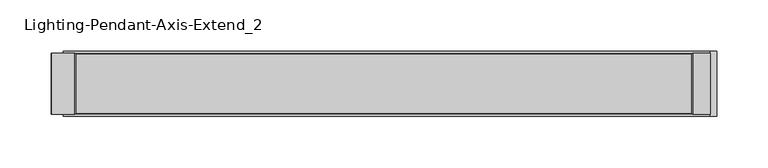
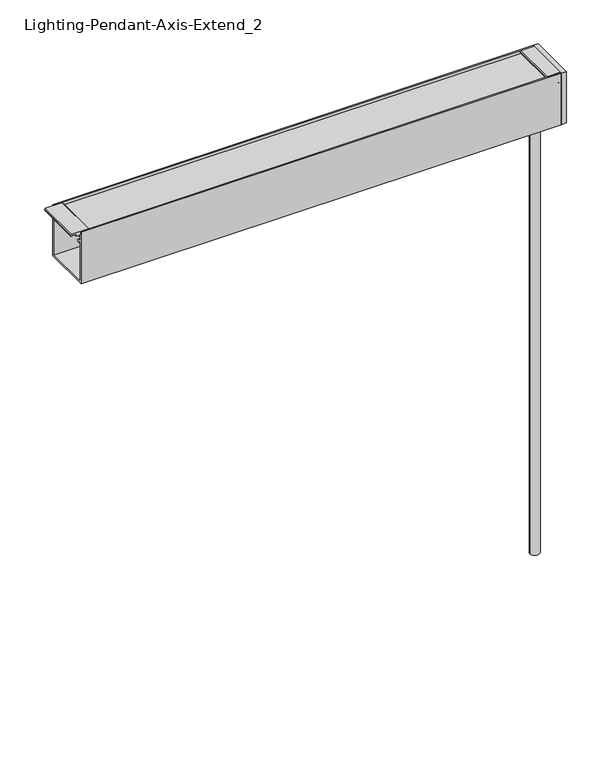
"""IFC4 building model written with IfcOpenShell, lengths in millimetres: light fixture geometry, Lighting-Pendant-Axis-Extend_2 : EX2PD-900-80-35-SO-4."""

from ifc_helpers import new_model, si_unit, point, frame, frame_2d, origin, place, context, project, spatial, polyline, circle_curve, trimmed, segment, composite_curve, outline, extrude, source, transform, mapped, element, save
from ifc_brep_helpers import plane_surface, cylinder_surface, advanced_brep


def lighting_pendant_axis_extend_2_409f2de3(model_context):
    return source(origin(), model_context, "Body", "SolidModel", [
        extrude(outline(polyline([(679.9357861, -301.8536), (681.0375, -302.7781437), (681.0375, -325.1352563), (679.9357861, -326.0598), (678.46575, -326.0598), (678.46575, -325.26605), (679.2595, -325.26605), (679.2595, -318.7954), (676.4532981, -318.7954), (676.4532981, -309.118), (679.2595, -309.118), (679.2595, -302.64735), (678.46575, -302.64735), (678.46575, -301.8536), (679.9357861, -301.8536)])), frame((0.0, -29.972, 0.0), z_axis=(0.0, 1.0, 0.0), x_axis=(0.0, 0.0, 1.0)), (0.0, 0.0, 1.0), 59.944),
        extrude(outline(polyline([(679.9357861, 301.4726), (678.46575, 301.4726), (678.46575, 302.26635), (679.2595, 302.26635), (679.2595, 309.118), (676.4532981, 309.118), (676.4532981, 319.786), (681.0375, 319.786), (681.0375, 302.3971437), (679.9357861, 301.4726)])), frame((0.0, -29.972, 0.0), z_axis=(0.0, 1.0, 0.0), x_axis=(0.0, 0.0, 1.0)), (0.0, 0.0, 1.0), 59.944),
        extrude(outline(polyline([(319.786, -32.004), (319.786, 32.004), (326.136, 32.004), (326.136, -32.004), (319.786, -32.004)])), frame((0.0, 0.0, 609.6), z_axis=(0.0, 0.0, 1.0), x_axis=(1.0, 0.0, 0.0)), (0.0, 0.0, 1.0), 71.4375),
        advanced_brep(
        [(309.372, 0.0, 609.6), (296.672, 0.0, 609.6), (303.022, 0.0, 609.6), (309.372, 0.0, 0.0), (296.672, 0.0, 0.0), (303.022, 0.0, 0.0)],
        [
            (0, 1, circle_curve(frame((303.022, 0.0, 609.6), z_axis=(0.0, 0.0, 1.0), x_axis=(-1.0, 0.0, 0.0)), 6.35)),
            (1, 2),
            (2, 0),
            (1, 0, circle_curve(frame((303.022, 0.0, 609.6), z_axis=(0.0, 0.0, 1.0), x_axis=(-1.0, 0.0, 0.0)), 6.35)),
            (3, 4, circle_curve(frame((303.022, 0.0, 0.0), z_axis=(0.0, 0.0, 1.0), x_axis=(-1.0, 0.0, 0.0)), 6.35)),
            (4, 1),
            (0, 3),
            (4, 3, circle_curve(frame((303.022, 0.0, 0.0), z_axis=(0.0, 0.0, 1.0), x_axis=(-1.0, 0.0, 0.0)), 6.35)),
            (5, 4),
            (3, 5),
        ],
        [
            plane_surface(frame((303.022, 0.0, 609.6), z_axis=(0.0, 0.0, 1.0), x_axis=(-1.0, 0.0, 0.0))),
            cylinder_surface(frame((303.022, 0.0, 2913.8581012), z_axis=(0.0, 0.0, -1.0), x_axis=(-1.0, 0.0, 0.0)), 6.35),
            plane_surface(frame((303.022, 0.0, 0.0), z_axis=(0.0, 0.0, -1.0), x_axis=(-1.0, 0.0, 0.0))),
        ],
        [
            (0, [[1, 2, 3]]),
            (0, [[4, -3, -2]]),
            (1, [[5, 6, -1, 7]]),
            (1, [[8, -7, -4, -6]]),
            (2, [[9, -5, 10]]),
            (2, [[-10, -8, -9]]),
        ],
    ),
        extrude(outline(composite_curve([segment(polyline([(-24.1727262, 676.1479991), (-24.5114181, 669.6853737)]), True, "CONTINUOUS"), segment(trimmed(circle_curve(frame_2d((-27.2542, 666.6865)), 4.064), [point((-24.5114181, 669.6853737))], [point((-25.3818814, 663.0794903))], False, "CARTESIAN"), True, "CONTINUOUS"), segment(trimmed(circle_curve(frame_2d((-22.149344, 663.8683457)), 3.3274001), [point((-25.3818814, 663.0794903))], [point((-24.5665956, 661.5817575))], True, "CARTESIAN"), True, "CONTINUOUS"), segment(trimmed(circle_curve(frame_2d((-17.1303177, 668.6160708)), 10.2362001), [point((-24.5665956, 661.5817575))], [point((-23.2119066, 660.3823555))], True, "CARTESIAN"), True, "CONTINUOUS"), segment(trimmed(circle_curve(frame_2d((-23.7023573, 659.7183462)), 0.8255), [point((-23.2119066, 660.3823555))], [point((-24.192808, 659.0543369))], False, "CARTESIAN"), True, "CONTINUOUS"), segment(trimmed(circle_curve(frame_2d((-17.1303169, 668.6160717)), 11.8872013), [point((-24.192808, 659.0543369))], [point((-25.7659952, 660.4471908))], False, "CARTESIAN"), True, "CONTINUOUS"), segment(trimmed(circle_curve(frame_2d((-22.149344, 663.8683457)), 4.9784001), [point((-25.7659952, 660.4471908))], [point((-27.1108807, 664.27776))], False, "CARTESIAN"), True, "CONTINUOUS"), segment(trimmed(circle_curve(frame_2d((-27.2542, 666.6865)), 2.413), [point((-27.1108807, 664.27776))], [point((-25.4753941, 668.3169658))], True, "CARTESIAN"), True, "CONTINUOUS"), segment(trimmed(circle_curve(frame_2d((-23.6029669, 670.0332456)), 2.54), [point((-25.4753941, 668.3169658))], [point((-26.1394859, 670.1661789))], False, "CARTESIAN"), True, "CONTINUOUS"), segment(polyline([(-26.1394859, 670.1661789), (-25.825992, 676.1479991), (-28.829, 676.1479991), (-28.829, 678.053), (28.829, 678.053), (28.829, 676.1479991), (25.825992, 676.1479991), (26.1394859, 670.1661789)]), True, "CONTINUOUS"), segment(trimmed(circle_curve(frame_2d((23.6029669, 670.0332456)), 2.54), [point((26.1394859, 670.1661789))], [point((25.4753941, 668.3169658))], False, "CARTESIAN"), True, "CONTINUOUS"), segment(trimmed(circle_curve(frame_2d((27.2542, 666.6865)), 2.413), [point((25.4753941, 668.3169658))], [point((27.1108807, 664.27776))], True, "CARTESIAN"), True, "CONTINUOUS"), segment(trimmed(circle_curve(frame_2d((22.149344, 663.8683457)), 4.9784001), [point((27.1108807, 664.27776))], [point((25.7659952, 660.4471908))], False, "CARTESIAN"), True, "CONTINUOUS"), segment(trimmed(circle_curve(frame_2d((17.1303169, 668.6160717)), 11.8872013), [point((25.7659952, 660.4471908))], [point((24.192808, 659.0543369))], False, "CARTESIAN"), True, "CONTINUOUS"), segment(trimmed(circle_curve(frame_2d((23.7023573, 659.7183462)), 0.8255), [point((24.192808, 659.0543369))], [point((23.2119066, 660.3823555))], False, "CARTESIAN"), True, "CONTINUOUS"), segment(trimmed(circle_curve(frame_2d((17.1303177, 668.6160708)), 10.2362001), [point((23.2119066, 660.3823555))], [point((24.5665956, 661.5817575))], True, "CARTESIAN"), True, "CONTINUOUS"), segment(trimmed(circle_curve(frame_2d((22.149344, 663.8683457)), 3.3274001), [point((24.5665956, 661.5817575))], [point((25.3818814, 663.0794903))], True, "CARTESIAN"), True, "CONTINUOUS"), segment(trimmed(circle_curve(frame_2d((27.2542, 666.6865)), 4.064), [point((25.3818814, 663.0794903))], [point((24.5114181, 669.6853737))], False, "CARTESIAN"), True, "CONTINUOUS"), segment(polyline([(24.5114181, 669.6853737), (24.1727262, 676.1479991), (-24.1727262, 676.1479991)]), True, "CONTINUOUS")], self_intersect=False)), frame((-304.8, 0.0, 0.0), z_axis=(1.0, 0.0, 0.0), x_axis=(0.0, 1.0, 0.0)), (0.0, 0.0, 1.0), 609.6),
        extrude(outline(composite_curve([segment(polyline([(-29.972, 666.1277), (-29.972, 611.632), (29.972, 611.632), (29.972, 666.1277), (28.1325797, 666.1277)]), True, "CONTINUOUS"), segment(trimmed(circle_curve(frame_2d((26.6262297, 666.1277)), 1.5063501), [point((28.1325797, 666.1277))], [point((25.8730546, 664.8231626))], False, "CARTESIAN"), True, "CONTINUOUS"), segment(trimmed(circle_curve(frame_2d((27.0642121, 666.8863079)), 2.382315), [point((25.8730546, 664.8231626))], [point((24.6896516, 667.0783682))], False, "CARTESIAN"), True, "CONTINUOUS"), segment(polyline([(24.6896516, 667.0783682), (28.067, 669.9123), (28.067, 668.1597), (29.972, 668.1597), (29.972, 674.6875), (28.067, 674.6875), (28.067, 673.1635), (26.416, 673.2500252), (26.416, 675.9575), (29.972, 675.9575), (29.972, 681.0375), (32.004, 681.0375), (32.004, 609.6), (-32.004, 609.6), (-32.004, 681.0375), (-29.972, 681.0375), (-29.972, 675.9575), (-26.416, 675.9575), (-26.416, 673.2500252), (-28.067, 673.1635), (-28.067, 674.6875), (-29.972, 674.6875), (-29.972, 668.1597), (-28.067, 668.1597), (-28.067, 669.9123), (-24.6896516, 667.0783682)]), True, "CONTINUOUS"), segment(trimmed(circle_curve(frame_2d((-27.0642121, 666.8863079)), 2.382315), [point((-24.6896516, 667.0783682))], [point((-25.8730546, 664.8231626))], False, "CARTESIAN"), True, "CONTINUOUS"), segment(trimmed(circle_curve(frame_2d((-26.6262297, 666.1277)), 1.5063501), [point((-25.8730546, 664.8231626))], [point((-28.1325797, 666.1277))], False, "CARTESIAN"), True, "CONTINUOUS"), segment(polyline([(-28.1325797, 666.1277), (-29.972, 666.1277)]), True, "CONTINUOUS")], self_intersect=False)), frame((-313.9567, 0.0, 0.0), z_axis=(1.0, 0.0, 0.0), x_axis=(0.0, 1.0, 0.0)), (0.0, 0.0, 1.0), 633.7427),
    ])


if __name__ == "__main__":
    model = new_model("IFC4")
    model_context = context("Model", 3, world=origin())
    ifc_project = project(units=[si_unit("LENGTHUNIT", "METRE", prefix="MILLI")], contexts=[model_context])
    site = spatial("IfcSite", under=ifc_project)
    building = spatial("IfcBuilding", under=site)
    placement = place(None, origin())
    lighting_pendant_axis_extend_2_shape = lighting_pendant_axis_extend_2_409f2de3(model_context)
    element("IfcLightFixture", 1, ObjectType="Lighting-Pendant-Axis-Extend_2 : EX2PD-900-80-35-SO-4", at=placement, inside=building, context=model_context, shape_type="MappedRepresentation", body=[
        mapped(lighting_pendant_axis_extend_2_shape, transform((0.0, 0.0, 0.0), x_axis=(1.0, 0.0, 0.0), y_axis=(0.0, 1.0, 0.0), z_axis=(0.0, 0.0, 1.0))),
    ])
    save(model, "model.ifc")
